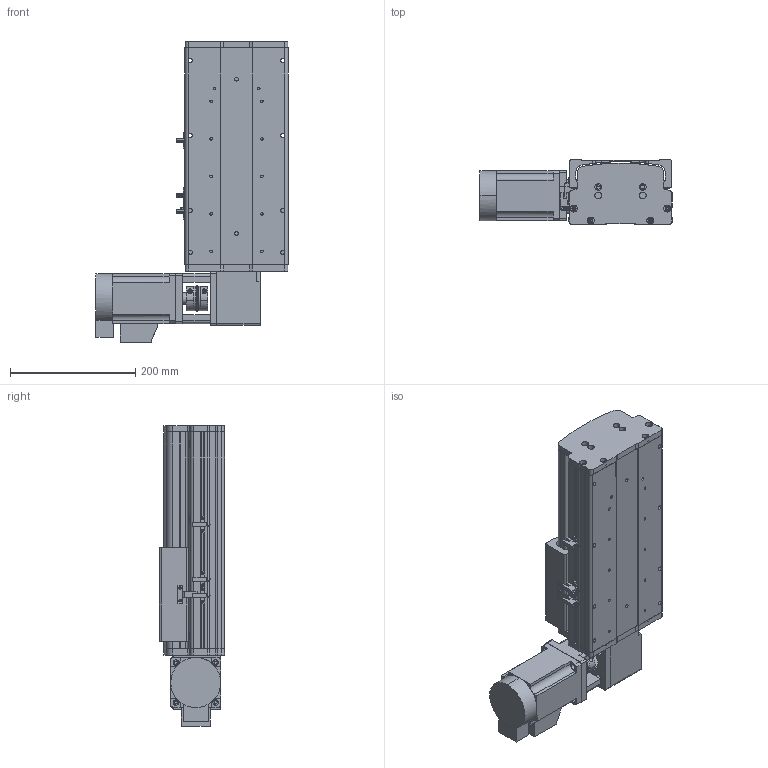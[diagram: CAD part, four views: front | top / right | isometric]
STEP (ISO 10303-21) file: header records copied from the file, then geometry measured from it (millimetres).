
FILE_DESCRIPTION (( 'STEP AP214' ), '1' );
FILE_NAME ('KSD165B-S100-MRT-CM.STEP', '2017-10-17T01:00:00', ( '微软用户' ), ( '微软中国' ), 'SwSTEP 2.0', 'SolidWorks 2014', '' );
FILE_SCHEMA (( 'AUTOMOTIVE_DESIGN' ));
Length unit declared in the file: millimetre
Products named in the file (16): 165宽马达安装板同步带左-改; KSD165模组-同步带防尘盖1-100行程-最新版; KSD165模组同步带底板-100行程-最新; 拸秶雄ん750W侜督萇儂; 165宽安装板同步带带电机座750W; C39ㄜ1419WP; U倰嫖萇假蚾璃; U倰嫖萇EEㄜSX672; 覜茼え68遵圉猾敕; KSD165模组-同步带-防撞垫2; KSD165模组同步带-防撞垫1; KSD165耀郪-ヶ傷啣1-肮祭湍; KSD165模组-后端板1-同步带; 130宽马达安装板1-带电机座750W（1）; KSD165模组-同步带滑动座-最新版; KSD165B-S100-MRT-CM
Assembly tree (19 placements, depth 2):
  KSD165B-S100-MRT-CM
    KSD165模组-同步带滑动座-最新版
    130宽马达安装板1-带电机座750W（1）
    KSD165模组-后端板1-同步带
    KSD165耀郪-ヶ傷啣1-肮祭湍
    KSD165模组同步带-防撞垫1
    KSD165模组-同步带-防撞垫2
    覜茼え68遵圉猾敕
    U倰嫖萇EEㄜSX672  x3
    U倰嫖萇假蚾璃  x3
    C39ㄜ1419WP
    165宽安装板同步带带电机座750W
    拸秶雄ん750W侜督萇儂
    KSD165模组同步带底板-100行程-最新
    KSD165模组-同步带防尘盖1-100行程-最新版
    165宽马达安装板同步带左-改
Bounding box: 307.5 x 104 x 481.06 mm (x, y, z)
Volume: 3820885.9 mm3; surface area: 827113 mm2
Topology: 20 solids, 21 shells, 1388 faces, 3834 edges, 2477 vertices
Faces by surface type: cylinder 725, plane 569, cone 94
Entity records: 43003 total; most frequent: CARTESIAN_POINT 9043, DIRECTION 6736, ORIENTED_EDGE 6320, EDGE_CURVE 3160, AXIS2_PLACEMENT_3D 2538, VERTEX_POINT 2069, VECTOR 1660, LINE 1660
